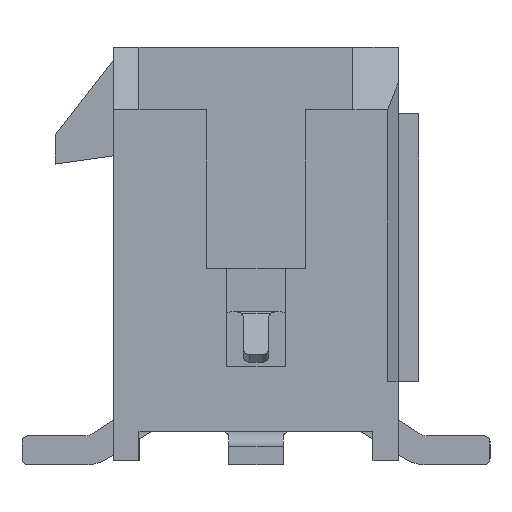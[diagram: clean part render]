
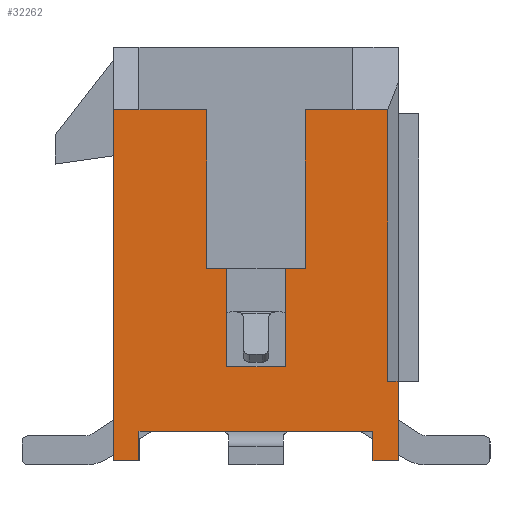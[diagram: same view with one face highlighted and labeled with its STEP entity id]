
A CAD part, left-side view. The second image highlights one B-rep face of the part: STEP entity #32262.
In plain terms, the highlighted planar face has unit normal (-1, 0, 0).
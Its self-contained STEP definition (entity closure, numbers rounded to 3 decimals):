
#6543=CARTESIAN_POINT('Vertex',(-15.3,-2.8,0.7)) ;
#6546=CARTESIAN_POINT('Line Origine',(-15.3,0.,0.7)) ;
#6550=CARTESIAN_POINT('Vertex',(-15.3,2.8,0.7)) ;
#6585=CARTESIAN_POINT('Vertex',(-15.3,2.8,0.)) ;
#6588=CARTESIAN_POINT('Line Origine',(-15.3,3.1,0.)) ;
#6592=CARTESIAN_POINT('Vertex',(-15.3,3.4,0.)) ;
#9598=CARTESIAN_POINT('Vertex',(-15.3,1.18,4.6)) ;
#9601=CARTESIAN_POINT('Line Origine',(-15.3,0.94,4.6)) ;
#9605=CARTESIAN_POINT('Vertex',(-15.3,0.7,4.6)) ;
#9631=CARTESIAN_POINT('Vertex',(-15.3,1.18,8.4)) ;
#9634=CARTESIAN_POINT('Line Origine',(-15.3,1.18,6.5)) ;
#9655=CARTESIAN_POINT('Vertex',(-15.3,2.8,8.4)) ;
#9658=CARTESIAN_POINT('Line Origine',(-15.3,1.99,8.4)) ;
#9695=CARTESIAN_POINT('Vertex',(-15.3,-2.32,8.4)) ;
#9713=CARTESIAN_POINT('Vertex',(-15.3,-1.18,8.4)) ;
#9716=CARTESIAN_POINT('Line Origine',(-15.3,-1.75,8.4)) ;
#9737=CARTESIAN_POINT('Vertex',(-15.3,-1.18,4.6)) ;
#9740=CARTESIAN_POINT('Line Origine',(-15.3,-1.18,6.5)) ;
#9756=CARTESIAN_POINT('Vertex',(-15.3,-0.7,4.6)) ;
#9759=CARTESIAN_POINT('Line Origine',(-15.3,-0.94,4.6)) ;
#16607=CARTESIAN_POINT('Line Origine',(-15.3,0.7,3.425)) ;
#16611=CARTESIAN_POINT('Vertex',(-15.3,0.7,2.25)) ;
#16631=CARTESIAN_POINT('Line Origine',(-15.3,0.,2.25)) ;
#16635=CARTESIAN_POINT('Vertex',(-15.3,-0.7,2.25)) ;
#16655=CARTESIAN_POINT('Line Origine',(-15.3,-0.7,3.425)) ;
#16678=CARTESIAN_POINT('Vertex',(-15.3,-3.4,0.)) ;
#16681=CARTESIAN_POINT('Line Origine',(-15.3,-3.1,0.)) ;
#16685=CARTESIAN_POINT('Vertex',(-15.3,-2.8,0.)) ;
#16705=CARTESIAN_POINT('Line Origine',(-15.3,-2.8,0.35)) ;
#16722=CARTESIAN_POINT('Line Origine',(-15.3,3.4,4.2)) ;
#16726=CARTESIAN_POINT('Vertex',(-15.3,3.4,8.4)) ;
#16831=CARTESIAN_POINT('Line Origine',(-15.3,3.1,8.4)) ;
#31392=CARTESIAN_POINT('Line Origine',(-15.3,2.8,0.35)) ;
#32078=CARTESIAN_POINT('Vertex',(-15.3,-3.15,8.4)) ;
#32093=CARTESIAN_POINT('Line Origine',(-15.3,-2.735,8.4)) ;
#32122=CARTESIAN_POINT('Vertex',(-15.3,-3.4,1.9)) ;
#32125=CARTESIAN_POINT('Line Origine',(-15.3,-3.4,0.95)) ;
#32223=CARTESIAN_POINT('Axis2P3D Location',(-15.3,0.,0.)) ;
#32228=CARTESIAN_POINT('Line Origine',(-15.3,-3.275,1.9)) ;
#32232=CARTESIAN_POINT('Vertex',(-15.3,-3.15,1.9)) ;
#32235=CARTESIAN_POINT('Line Origine',(-15.3,-3.15,5.15)) ;
#6547=DIRECTION('Vector Direction',(0.,-1.,0.)) ;
#6589=DIRECTION('Vector Direction',(0.,1.,0.)) ;
#9602=DIRECTION('Vector Direction',(0.,1.,0.)) ;
#9635=DIRECTION('Vector Direction',(0.,0.,1.)) ;
#9659=DIRECTION('Vector Direction',(0.,1.,0.)) ;
#9717=DIRECTION('Vector Direction',(0.,1.,0.)) ;
#9741=DIRECTION('Vector Direction',(0.,0.,-1.)) ;
#9760=DIRECTION('Vector Direction',(0.,1.,0.)) ;
#16608=DIRECTION('Vector Direction',(0.,0.,1.)) ;
#16632=DIRECTION('Vector Direction',(0.,1.,0.)) ;
#16656=DIRECTION('Vector Direction',(0.,0.,-1.)) ;
#16682=DIRECTION('Vector Direction',(0.,-1.,0.)) ;
#16706=DIRECTION('Vector Direction',(0.,0.,-1.)) ;
#16723=DIRECTION('Vector Direction',(0.,0.,1.)) ;
#16832=DIRECTION('Vector Direction',(0.,-1.,0.)) ;
#31393=DIRECTION('Vector Direction',(0.,0.,-1.)) ;
#32094=DIRECTION('Vector Direction',(0.,-1.,0.)) ;
#32126=DIRECTION('Vector Direction',(0.,0.,1.)) ;
#32224=DIRECTION('Axis2P3D Direction',(1.,0.,0.)) ;
#32225=DIRECTION('Axis2P3D XDirection',(0.,1.,0.)) ;
#32229=DIRECTION('Vector Direction',(0.,1.,0.)) ;
#32236=DIRECTION('Vector Direction',(0.,0.,-1.)) ;
#32226=AXIS2_PLACEMENT_3D('Plane Axis2P3D',#32223,#32224,#32225) ;
#32241=ORIENTED_EDGE('',*,*,#32234,.T.) ;
#32242=ORIENTED_EDGE('',*,*,#32239,.F.) ;
#32243=ORIENTED_EDGE('',*,*,#32097,.F.) ;
#32244=ORIENTED_EDGE('',*,*,#9720,.F.) ;
#32245=ORIENTED_EDGE('',*,*,#9744,.T.) ;
#32246=ORIENTED_EDGE('',*,*,#9763,.T.) ;
#32247=ORIENTED_EDGE('',*,*,#16659,.T.) ;
#32248=ORIENTED_EDGE('',*,*,#16637,.T.) ;
#32249=ORIENTED_EDGE('',*,*,#16613,.T.) ;
#32250=ORIENTED_EDGE('',*,*,#9607,.T.) ;
#32251=ORIENTED_EDGE('',*,*,#9638,.T.) ;
#32252=ORIENTED_EDGE('',*,*,#9662,.F.) ;
#32253=ORIENTED_EDGE('',*,*,#16835,.F.) ;
#32254=ORIENTED_EDGE('',*,*,#16728,.F.) ;
#32255=ORIENTED_EDGE('',*,*,#6594,.F.) ;
#32256=ORIENTED_EDGE('',*,*,#31396,.F.) ;
#32257=ORIENTED_EDGE('',*,*,#6552,.F.) ;
#32258=ORIENTED_EDGE('',*,*,#16709,.F.) ;
#32259=ORIENTED_EDGE('',*,*,#16687,.F.) ;
#32260=ORIENTED_EDGE('',*,*,#32129,.F.) ;
#6548=VECTOR('Line Direction',#6547,1.) ;
#6590=VECTOR('Line Direction',#6589,1.) ;
#9603=VECTOR('Line Direction',#9602,1.) ;
#9636=VECTOR('Line Direction',#9635,1.) ;
#9660=VECTOR('Line Direction',#9659,1.) ;
#9718=VECTOR('Line Direction',#9717,1.) ;
#9742=VECTOR('Line Direction',#9741,1.) ;
#9761=VECTOR('Line Direction',#9760,1.) ;
#16609=VECTOR('Line Direction',#16608,1.) ;
#16633=VECTOR('Line Direction',#16632,1.) ;
#16657=VECTOR('Line Direction',#16656,1.) ;
#16683=VECTOR('Line Direction',#16682,1.) ;
#16707=VECTOR('Line Direction',#16706,1.) ;
#16724=VECTOR('Line Direction',#16723,1.) ;
#16833=VECTOR('Line Direction',#16832,1.) ;
#31394=VECTOR('Line Direction',#31393,1.) ;
#32095=VECTOR('Line Direction',#32094,1.) ;
#32127=VECTOR('Line Direction',#32126,1.) ;
#32230=VECTOR('Line Direction',#32229,1.) ;
#32237=VECTOR('Line Direction',#32236,1.) ;
#32262=ADVANCED_FACE('\X2\96F64EF651E04F554F53\X0\',(#32261),#32227,.F.) ;
#6552=EDGE_CURVE('',#6544,#6551,#6549,.F.) ;
#6594=EDGE_CURVE('',#6586,#6593,#6591,.T.) ;
#9607=EDGE_CURVE('',#9606,#9599,#9604,.T.) ;
#9638=EDGE_CURVE('',#9599,#9632,#9637,.T.) ;
#9662=EDGE_CURVE('',#9656,#9632,#9661,.F.) ;
#9720=EDGE_CURVE('',#9714,#9696,#9719,.F.) ;
#9744=EDGE_CURVE('',#9714,#9738,#9743,.T.) ;
#9763=EDGE_CURVE('',#9738,#9757,#9762,.T.) ;
#16613=EDGE_CURVE('',#16612,#9606,#16610,.T.) ;
#16637=EDGE_CURVE('',#16636,#16612,#16634,.T.) ;
#16659=EDGE_CURVE('',#9757,#16636,#16658,.T.) ;
#16687=EDGE_CURVE('',#16679,#16686,#16684,.F.) ;
#16709=EDGE_CURVE('',#16686,#6544,#16708,.F.) ;
#16728=EDGE_CURVE('',#6593,#16727,#16725,.T.) ;
#16835=EDGE_CURVE('',#16727,#9656,#16834,.T.) ;
#31396=EDGE_CURVE('',#6551,#6586,#31395,.T.) ;
#32097=EDGE_CURVE('',#9696,#32079,#32096,.T.) ;
#32129=EDGE_CURVE('',#32123,#16679,#32128,.F.) ;
#32234=EDGE_CURVE('',#32123,#32233,#32231,.T.) ;
#32239=EDGE_CURVE('',#32079,#32233,#32238,.T.) ;
#32240=EDGE_LOOP('',(#32241,#32242,#32243,#32244,#32245,#32246,#32247,#32248,#32249,#32250,#32251,#32252,#32253,#32254,#32255,#32256,#32257,#32258,#32259,#32260)) ;
#32261=FACE_OUTER_BOUND('',#32240,.T.) ;
#6549=LINE('Line',#6546,#6548) ;
#6591=LINE('Line',#6588,#6590) ;
#9604=LINE('Line',#9601,#9603) ;
#9637=LINE('Line',#9634,#9636) ;
#9661=LINE('Line',#9658,#9660) ;
#9719=LINE('Line',#9716,#9718) ;
#9743=LINE('Line',#9740,#9742) ;
#9762=LINE('Line',#9759,#9761) ;
#16610=LINE('Line',#16607,#16609) ;
#16634=LINE('Line',#16631,#16633) ;
#16658=LINE('Line',#16655,#16657) ;
#16684=LINE('Line',#16681,#16683) ;
#16708=LINE('Line',#16705,#16707) ;
#16725=LINE('Line',#16722,#16724) ;
#16834=LINE('Line',#16831,#16833) ;
#31395=LINE('Line',#31392,#31394) ;
#32096=LINE('Line',#32093,#32095) ;
#32128=LINE('Line',#32125,#32127) ;
#32231=LINE('Line',#32228,#32230) ;
#32238=LINE('Line',#32235,#32237) ;
#32227=PLANE('Plane',#32226) ;
#6544=VERTEX_POINT('',#6543) ;
#6551=VERTEX_POINT('',#6550) ;
#6586=VERTEX_POINT('',#6585) ;
#6593=VERTEX_POINT('',#6592) ;
#9599=VERTEX_POINT('',#9598) ;
#9606=VERTEX_POINT('',#9605) ;
#9632=VERTEX_POINT('',#9631) ;
#9656=VERTEX_POINT('',#9655) ;
#9696=VERTEX_POINT('',#9695) ;
#9714=VERTEX_POINT('',#9713) ;
#9738=VERTEX_POINT('',#9737) ;
#9757=VERTEX_POINT('',#9756) ;
#16612=VERTEX_POINT('',#16611) ;
#16636=VERTEX_POINT('',#16635) ;
#16679=VERTEX_POINT('',#16678) ;
#16686=VERTEX_POINT('',#16685) ;
#16727=VERTEX_POINT('',#16726) ;
#32079=VERTEX_POINT('',#32078) ;
#32123=VERTEX_POINT('',#32122) ;
#32233=VERTEX_POINT('',#32232) ;
